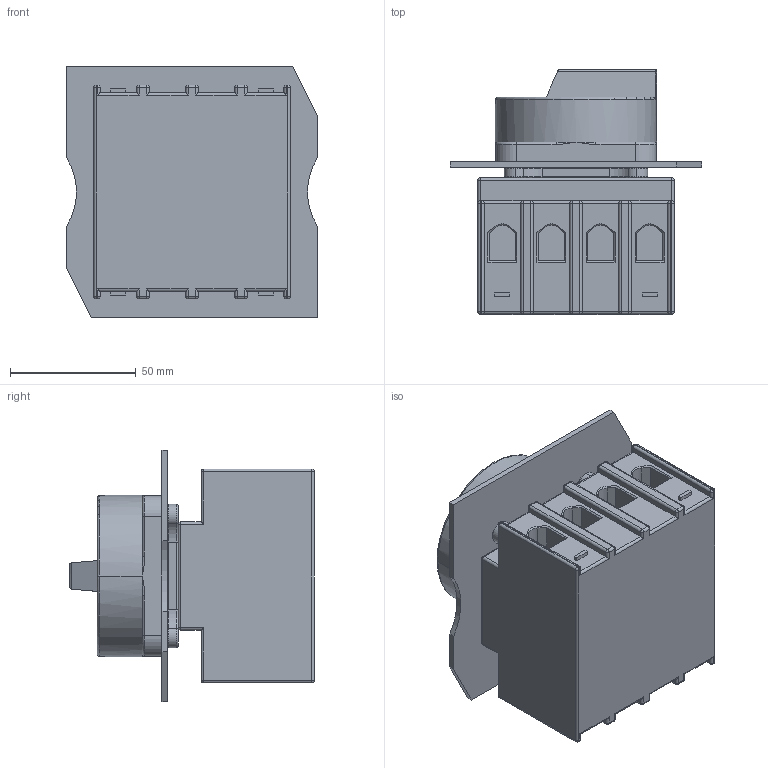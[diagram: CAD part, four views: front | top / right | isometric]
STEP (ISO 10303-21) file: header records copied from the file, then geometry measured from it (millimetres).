
FILE_DESCRIPTION (( 'STEP AP203' ), '1' );
FILE_NAME ('LTS85_100_125 EHN4 A3.STEP', '2014-05-14T06:16:38', ( '' ), ( '' ), 'SwSTEP 2.0', 'SolidWorks 2014', '' );
FILE_SCHEMA (( 'CONFIG_CONTROL_DESIGN' ));
Length unit declared in the file: millimetre
Products named in the file (5): LTS85_100_125 EHN4 A3; Schalterkörper LTS125 E; Frontplatte 64x64; SV4_64x64; Panel
Assembly tree (4 placements, depth 2):
  LTS85_100_125 EHN4 A3
    Schalterkörper LTS125 E
    Frontplatte 64x64
    SV4_64x64
    Panel
Bounding box: 100 x 97.3 x 100 mm (x, y, z)
Volume: 396160.8 mm3; surface area: 82014.1 mm2
Topology: 4 solids, 4 shells, 472 faces, 1109 edges, 614 vertices
Faces by surface type: plane 192, cylinder 182, sphere 44, torus 36, bspline 10, cone 8
Entity records: 13714 total; most frequent: CARTESIAN_POINT 2741, DIRECTION 2283, ORIENTED_EDGE 2114, EDGE_CURVE 1057, AXIS2_PLACEMENT_3D 840, VERTEX_POINT 614, LINE 603, VECTOR 603
